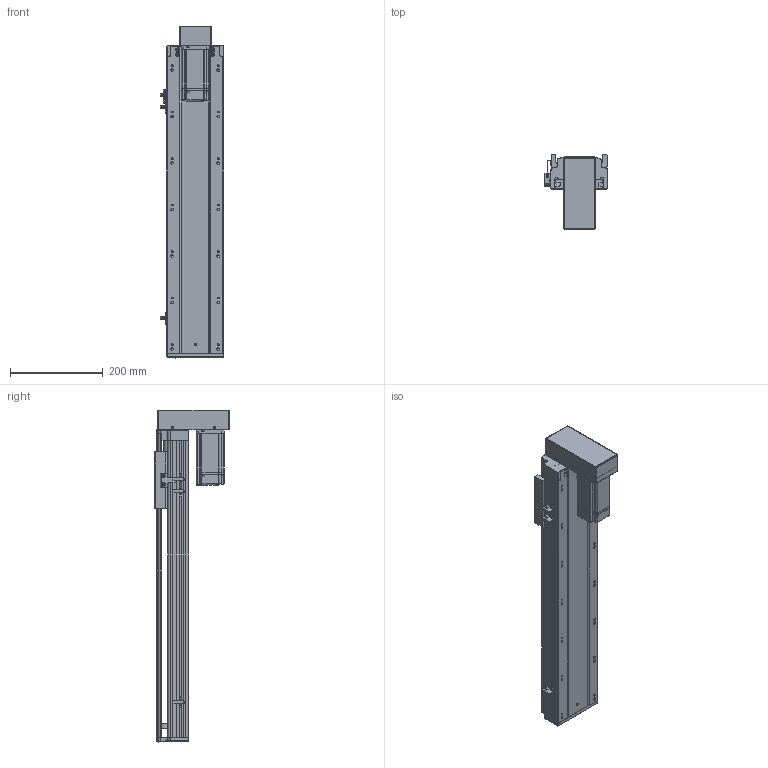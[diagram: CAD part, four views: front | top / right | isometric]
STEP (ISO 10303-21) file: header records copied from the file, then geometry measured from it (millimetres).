
FILE_DESCRIPTION (( 'STEP AP203' ), '1' );
FILE_NAME ('RY120-L2020-300-BK.SLDASM_450.step', '2021-03-12T06:57:29', ( '盈信电脑' ), ( '东莞市道滘镇水果街19号' ), 'SwSTEP 2.0', 'SolidWorks 2012', '' );
FILE_SCHEMA (( 'CONFIG_CONTROL_DESIGN' ));
Products named in the file (15): RY120-400W萇儂傷-BK; RY120-L2020-300-BK.SLDASM_450; 15; RY120下折折电机安装板; 侂狟400W侜督萇儂; RY120狟殏萇儂欶; RY120转拆电端丝杆支撑座(20丝杆，7002轴承); 滅袉蝶18-10; 滅袉蝶18-24; RY120外置感应片(140共用）; RY120-300-BK蛌殏倰第奻裔啣_450; RY120臏賑輸(20蹟譫); 覜茼ん672; RY120綴裔啣; RY120-300-BK蛌殏倰第菁釱_450
Assembly tree (17 placements, depth 4):
  RY120-L2020-300-BK.SLDASM_450
    RY120-300-BK蛌殏倰第菁釱_450
    RY120-300-BK蛌殏倰第奻裔啣_450
    RY120臏賑輸(20蹟譫)
    RY120綴裔啣
    覜茼ん672  x3
    滅袉蝶18-10
    滅袉蝶18-24  x2
    RY120外置感应片(140共用）
    RY120转拆电端丝杆支撑座(20丝杆，7002轴承)
    RY120-400W萇儂傷-BK
      侂狟400W侜督萇儂
        15
      RY120狟殏萇儂欶
      RY120下折折电机安装板
Bounding box: 135.7 x 159.5 x 714 mm (x, y, z)
Volume: 2301238.7 mm3; surface area: 820096.8 mm2
Topology: 16 solids, 16 shells, 2392 faces, 6575 edges, 4222 vertices
Faces by surface type: plane 1216, cylinder 876, cone 195, bspline 105
Entity records: 79391 total; most frequent: CARTESIAN_POINT 22385, ORIENTED_EDGE 11894, DIRECTION 10951, EDGE_CURVE 5947, VERTEX_POINT 3890, VECTOR 3709, LINE 3709, AXIS2_PLACEMENT_3D 3621
